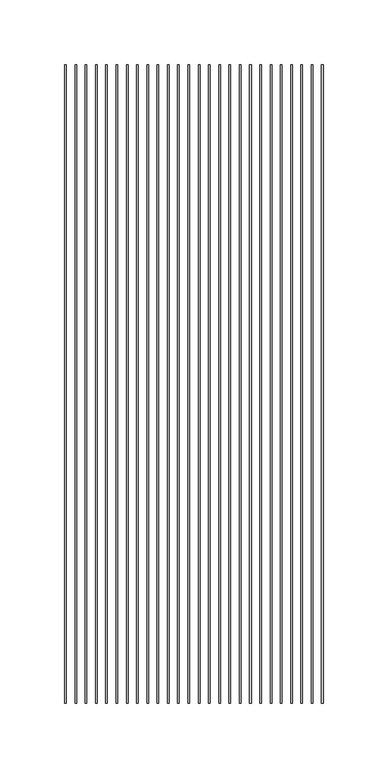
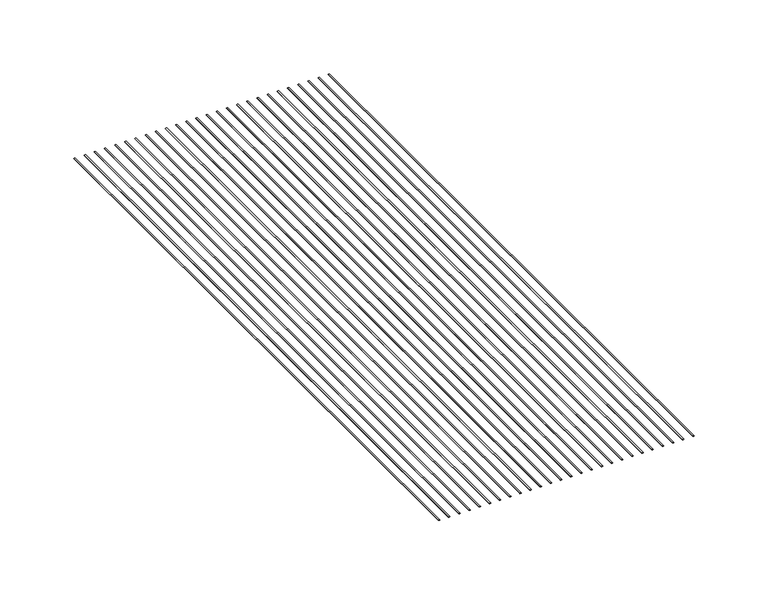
"""IFC4 building model written with IfcOpenShell, lengths in millimetres: proxy geometry, CRAi Generic Model Mesh Piece Face Based : CRAi Generic Model Mesh Piece Face Based."""

from ifc_helpers import new_model, si_unit, point, frame, origin, place, context, project, spatial, ellipse_curve, trimmed, source, transform, mapped, element, save
from ifc_brep_helpers import plane_surface, extruded_surface, advanced_brep


def generic_models_0bbfdc8f(model_context):
    return source(origin(), model_context, "Body", "AdvancedBrep", [
        advanced_brep(
        [(-164.9015625, -246.3036785, -2.5796875), (-163.7109375, -246.3036785, -2.5796875), (-164.9015625, 246.3036785, -2.5796875), (-163.7109375, 246.3036785, -2.5796875)],
        [
            (0, 1, ellipse_curve(frame((-164.30625, -246.3036785, -2.5796875), z_axis=(0.0, -1.0, 0.0), x_axis=(1.0, 0.0, 0.0)), 0.5953125, 0.1984375)),
            (1, 0, ellipse_curve(frame((-164.30625, -246.3036785, -2.5796875), z_axis=(0.0, -1.0, 0.0), x_axis=(1.0, 0.0, 0.0)), 0.5953125, 0.1984375)),
            (2, 3, ellipse_curve(frame((-164.30625, 246.3036785, -2.5796875), z_axis=(0.0, 1.0, 0.0), x_axis=(1.0, 0.0, 0.0)), 0.5953125, 0.1984375)),
            (3, 2, ellipse_curve(frame((-164.30625, 246.3036785, -2.5796875), z_axis=(0.0, 1.0, 0.0), x_axis=(1.0, 0.0, 0.0)), 0.5953125, 0.1984375)),
            (0, 2),
            (3, 1),
        ],
        [
            plane_surface(frame((-164.30625, -246.3036785, -2.5796875), z_axis=(0.0, -1.0, 0.0), x_axis=(0.0, 0.0, 1.0))),
            plane_surface(frame((-164.30625, 246.3036785, -2.5796875), z_axis=(0.0, 1.0, 0.0), x_axis=(0.0, 0.0, 1.0))),
            extruded_surface(trimmed(ellipse_curve(frame((-164.30625, 246.3036785, -2.5796875), z_axis=(0.0, -1.0, 0.0), x_axis=(1.0, 0.0, 0.0)), 0.5953125, 0.1984375), [point((-164.9015625, 246.3036785, -2.5796875))], [point((-163.7109375, 246.3036785, -2.5796875))], True, "CARTESIAN"), (0.0, -492.607357, 0.0), 492.607357),
            extruded_surface(trimmed(ellipse_curve(frame((-164.30625, 246.3036785, -2.5796875), z_axis=(0.0, -1.0, 0.0), x_axis=(1.0, 0.0, 0.0)), 0.5953125, 0.1984375), [point((-163.7109375, 246.3036785, -2.5796875))], [point((-164.9015625, 246.3036785, -2.5796875))], True, "CARTESIAN"), (0.0, -492.607357, 0.0), 492.607357),
        ],
        [
            (0, [[1, 2]]),
            (1, [[3, 4]]),
            (2, [[-1, 5, -4, 6]]),
            (3, [[-2, -6, -3, -5]]),
        ],
    ),
        advanced_brep(
        [(-156.9640625, -246.3036785, -2.5796875), (-155.7734375, -246.3036785, -2.5796875), (-156.9640625, 246.3036785, -2.5796875), (-155.7734375, 246.3036785, -2.5796875)],
        [
            (0, 1, ellipse_curve(frame((-156.36875, -246.3036785, -2.5796875), z_axis=(0.0, -1.0, 0.0), x_axis=(1.0, 0.0, 0.0)), 0.5953125, 0.1984375)),
            (1, 0, ellipse_curve(frame((-156.36875, -246.3036785, -2.5796875), z_axis=(0.0, -1.0, 0.0), x_axis=(1.0, 0.0, 0.0)), 0.5953125, 0.1984375)),
            (2, 3, ellipse_curve(frame((-156.36875, 246.3036785, -2.5796875), z_axis=(0.0, 1.0, 0.0), x_axis=(1.0, 0.0, 0.0)), 0.5953125, 0.1984375)),
            (3, 2, ellipse_curve(frame((-156.36875, 246.3036785, -2.5796875), z_axis=(0.0, 1.0, 0.0), x_axis=(1.0, 0.0, 0.0)), 0.5953125, 0.1984375)),
            (0, 2),
            (3, 1),
        ],
        [
            plane_surface(frame((-156.36875, -246.3036785, -2.5796875), z_axis=(0.0, -1.0, 0.0), x_axis=(0.0, 0.0, 1.0))),
            plane_surface(frame((-156.36875, 246.3036785, -2.5796875), z_axis=(0.0, 1.0, 0.0), x_axis=(0.0, 0.0, 1.0))),
            extruded_surface(trimmed(ellipse_curve(frame((-156.36875, 246.3036785, -2.5796875), z_axis=(0.0, -1.0, 0.0), x_axis=(1.0, 0.0, 0.0)), 0.5953125, 0.1984375), [point((-156.9640625, 246.3036785, -2.5796875))], [point((-155.7734375, 246.3036785, -2.5796875))], True, "CARTESIAN"), (0.0, -492.607357, 0.0), 492.607357),
            extruded_surface(trimmed(ellipse_curve(frame((-156.36875, 246.3036785, -2.5796875), z_axis=(0.0, -1.0, 0.0), x_axis=(1.0, 0.0, 0.0)), 0.5953125, 0.1984375), [point((-155.7734375, 246.3036785, -2.5796875))], [point((-156.9640625, 246.3036785, -2.5796875))], True, "CARTESIAN"), (0.0, -492.607357, 0.0), 492.607357),
        ],
        [
            (0, [[1, 2]]),
            (1, [[3, 4]]),
            (2, [[-1, 5, -4, 6]]),
            (3, [[-2, -6, -3, -5]]),
        ],
    ),
        advanced_brep(
        [(-149.0265625, -246.3036785, -2.5796875), (-147.8359375, -246.3036785, -2.5796875), (-149.0265625, 246.3036785, -2.5796875), (-147.8359375, 246.3036785, -2.5796875)],
        [
            (0, 1, ellipse_curve(frame((-148.43125, -246.3036785, -2.5796875), z_axis=(0.0, -1.0, 0.0), x_axis=(1.0, 0.0, 0.0)), 0.5953125, 0.1984375)),
            (1, 0, ellipse_curve(frame((-148.43125, -246.3036785, -2.5796875), z_axis=(0.0, -1.0, 0.0), x_axis=(1.0, 0.0, 0.0)), 0.5953125, 0.1984375)),
            (2, 3, ellipse_curve(frame((-148.43125, 246.3036785, -2.5796875), z_axis=(0.0, 1.0, 0.0), x_axis=(1.0, 0.0, 0.0)), 0.5953125, 0.1984375)),
            (3, 2, ellipse_curve(frame((-148.43125, 246.3036785, -2.5796875), z_axis=(0.0, 1.0, 0.0), x_axis=(1.0, 0.0, 0.0)), 0.5953125, 0.1984375)),
            (0, 2),
            (3, 1),
        ],
        [
            plane_surface(frame((-148.43125, -246.3036785, -2.5796875), z_axis=(0.0, -1.0, 0.0), x_axis=(0.0, 0.0, 1.0))),
            plane_surface(frame((-148.43125, 246.3036785, -2.5796875), z_axis=(0.0, 1.0, 0.0), x_axis=(0.0, 0.0, 1.0))),
            extruded_surface(trimmed(ellipse_curve(frame((-148.43125, 246.3036785, -2.5796875), z_axis=(0.0, -1.0, 0.0), x_axis=(1.0, 0.0, 0.0)), 0.5953125, 0.1984375), [point((-149.0265625, 246.3036785, -2.5796875))], [point((-147.8359375, 246.3036785, -2.5796875))], True, "CARTESIAN"), (0.0, -492.607357, 0.0), 492.607357),
            extruded_surface(trimmed(ellipse_curve(frame((-148.43125, 246.3036785, -2.5796875), z_axis=(0.0, -1.0, 0.0), x_axis=(1.0, 0.0, 0.0)), 0.5953125, 0.1984375), [point((-147.8359375, 246.3036785, -2.5796875))], [point((-149.0265625, 246.3036785, -2.5796875))], True, "CARTESIAN"), (0.0, -492.607357, 0.0), 492.607357),
        ],
        [
            (0, [[1, 2]]),
            (1, [[3, 4]]),
            (2, [[-1, 5, -4, 6]]),
            (3, [[-2, -6, -3, -5]]),
        ],
    ),
        advanced_brep(
        [(-141.0890625, -246.3036785, -2.5796875), (-139.8984375, -246.3036785, -2.5796875), (-141.0890625, 246.3036785, -2.5796875), (-139.8984375, 246.3036785, -2.5796875)],
        [
            (0, 1, ellipse_curve(frame((-140.49375, -246.3036785, -2.5796875), z_axis=(0.0, -1.0, 0.0), x_axis=(1.0, 0.0, 0.0)), 0.5953125, 0.1984375)),
            (1, 0, ellipse_curve(frame((-140.49375, -246.3036785, -2.5796875), z_axis=(0.0, -1.0, 0.0), x_axis=(1.0, 0.0, 0.0)), 0.5953125, 0.1984375)),
            (2, 3, ellipse_curve(frame((-140.49375, 246.3036785, -2.5796875), z_axis=(0.0, 1.0, 0.0), x_axis=(1.0, 0.0, 0.0)), 0.5953125, 0.1984375)),
            (3, 2, ellipse_curve(frame((-140.49375, 246.3036785, -2.5796875), z_axis=(0.0, 1.0, 0.0), x_axis=(1.0, 0.0, 0.0)), 0.5953125, 0.1984375)),
            (0, 2),
            (3, 1),
        ],
        [
            plane_surface(frame((-140.49375, -246.3036785, -2.5796875), z_axis=(0.0, -1.0, 0.0), x_axis=(0.0, 0.0, 1.0))),
            plane_surface(frame((-140.49375, 246.3036785, -2.5796875), z_axis=(0.0, 1.0, 0.0), x_axis=(0.0, 0.0, 1.0))),
            extruded_surface(trimmed(ellipse_curve(frame((-140.49375, 246.3036785, -2.5796875), z_axis=(0.0, -1.0, 0.0), x_axis=(1.0, 0.0, 0.0)), 0.5953125, 0.1984375), [point((-141.0890625, 246.3036785, -2.5796875))], [point((-139.8984375, 246.3036785, -2.5796875))], True, "CARTESIAN"), (0.0, -492.607357, 0.0), 492.607357),
            extruded_surface(trimmed(ellipse_curve(frame((-140.49375, 246.3036785, -2.5796875), z_axis=(0.0, -1.0, 0.0), x_axis=(1.0, 0.0, 0.0)), 0.5953125, 0.1984375), [point((-139.8984375, 246.3036785, -2.5796875))], [point((-141.0890625, 246.3036785, -2.5796875))], True, "CARTESIAN"), (0.0, -492.607357, 0.0), 492.607357),
        ],
        [
            (0, [[1, 2]]),
            (1, [[3, 4]]),
            (2, [[-1, 5, -4, 6]]),
            (3, [[-2, -6, -3, -5]]),
        ],
    ),
        advanced_brep(
        [(-133.1515625, -246.3036785, -2.5796875), (-131.9609375, -246.3036785, -2.5796875), (-133.1515625, 246.3036785, -2.5796875), (-131.9609375, 246.3036785, -2.5796875)],
        [
            (0, 1, ellipse_curve(frame((-132.55625, -246.3036785, -2.5796875), z_axis=(0.0, -1.0, 0.0), x_axis=(1.0, 0.0, 0.0)), 0.5953125, 0.1984375)),
            (1, 0, ellipse_curve(frame((-132.55625, -246.3036785, -2.5796875), z_axis=(0.0, -1.0, 0.0), x_axis=(1.0, 0.0, 0.0)), 0.5953125, 0.1984375)),
            (2, 3, ellipse_curve(frame((-132.55625, 246.3036785, -2.5796875), z_axis=(0.0, 1.0, 0.0), x_axis=(1.0, 0.0, 0.0)), 0.5953125, 0.1984375)),
            (3, 2, ellipse_curve(frame((-132.55625, 246.3036785, -2.5796875), z_axis=(0.0, 1.0, 0.0), x_axis=(1.0, 0.0, 0.0)), 0.5953125, 0.1984375)),
            (0, 2),
            (3, 1),
        ],
        [
            plane_surface(frame((-132.55625, -246.3036785, -2.5796875), z_axis=(0.0, -1.0, 0.0), x_axis=(0.0, 0.0, 1.0))),
            plane_surface(frame((-132.55625, 246.3036785, -2.5796875), z_axis=(0.0, 1.0, 0.0), x_axis=(0.0, 0.0, 1.0))),
            extruded_surface(trimmed(ellipse_curve(frame((-132.55625, 246.3036785, -2.5796875), z_axis=(0.0, -1.0, 0.0), x_axis=(1.0, 0.0, 0.0)), 0.5953125, 0.1984375), [point((-133.1515625, 246.3036785, -2.5796875))], [point((-131.9609375, 246.3036785, -2.5796875))], True, "CARTESIAN"), (0.0, -492.607357, 0.0), 492.607357),
            extruded_surface(trimmed(ellipse_curve(frame((-132.55625, 246.3036785, -2.5796875), z_axis=(0.0, -1.0, 0.0), x_axis=(1.0, 0.0, 0.0)), 0.5953125, 0.1984375), [point((-131.9609375, 246.3036785, -2.5796875))], [point((-133.1515625, 246.3036785, -2.5796875))], True, "CARTESIAN"), (0.0, -492.607357, 0.0), 492.607357),
        ],
        [
            (0, [[1, 2]]),
            (1, [[3, 4]]),
            (2, [[-1, 5, -4, 6]]),
            (3, [[-2, -6, -3, -5]]),
        ],
    ),
        advanced_brep(
        [(-125.2140625, -246.3036785, -2.5796875), (-124.0234375, -246.3036785, -2.5796875), (-125.2140625, 246.3036785, -2.5796875), (-124.0234375, 246.3036785, -2.5796875)],
        [
            (0, 1, ellipse_curve(frame((-124.61875, -246.3036785, -2.5796875), z_axis=(0.0, -1.0, 0.0), x_axis=(1.0, 0.0, 0.0)), 0.5953125, 0.1984375)),
            (1, 0, ellipse_curve(frame((-124.61875, -246.3036785, -2.5796875), z_axis=(0.0, -1.0, 0.0), x_axis=(1.0, 0.0, 0.0)), 0.5953125, 0.1984375)),
            (2, 3, ellipse_curve(frame((-124.61875, 246.3036785, -2.5796875), z_axis=(0.0, 1.0, 0.0), x_axis=(1.0, 0.0, 0.0)), 0.5953125, 0.1984375)),
            (3, 2, ellipse_curve(frame((-124.61875, 246.3036785, -2.5796875), z_axis=(0.0, 1.0, 0.0), x_axis=(1.0, 0.0, 0.0)), 0.5953125, 0.1984375)),
            (0, 2),
            (3, 1),
        ],
        [
            plane_surface(frame((-124.61875, -246.3036785, -2.5796875), z_axis=(0.0, -1.0, 0.0), x_axis=(0.0, 0.0, 1.0))),
            plane_surface(frame((-124.61875, 246.3036785, -2.5796875), z_axis=(0.0, 1.0, 0.0), x_axis=(0.0, 0.0, 1.0))),
            extruded_surface(trimmed(ellipse_curve(frame((-124.61875, 246.3036785, -2.5796875), z_axis=(0.0, -1.0, 0.0), x_axis=(1.0, 0.0, 0.0)), 0.5953125, 0.1984375), [point((-125.2140625, 246.3036785, -2.5796875))], [point((-124.0234375, 246.3036785, -2.5796875))], True, "CARTESIAN"), (0.0, -492.607357, 0.0), 492.607357),
            extruded_surface(trimmed(ellipse_curve(frame((-124.61875, 246.3036785, -2.5796875), z_axis=(0.0, -1.0, 0.0), x_axis=(1.0, 0.0, 0.0)), 0.5953125, 0.1984375), [point((-124.0234375, 246.3036785, -2.5796875))], [point((-125.2140625, 246.3036785, -2.5796875))], True, "CARTESIAN"), (0.0, -492.607357, 0.0), 492.607357),
        ],
        [
            (0, [[1, 2]]),
            (1, [[3, 4]]),
            (2, [[-1, 5, -4, 6]]),
            (3, [[-2, -6, -3, -5]]),
        ],
    ),
        advanced_brep(
        [(-117.2765625, -246.3036785, -2.5796875), (-116.0859375, -246.3036785, -2.5796875), (-117.2765625, 246.3036785, -2.5796875), (-116.0859375, 246.3036785, -2.5796875)],
        [
            (0, 1, ellipse_curve(frame((-116.68125, -246.3036785, -2.5796875), z_axis=(0.0, -1.0, 0.0), x_axis=(1.0, 0.0, 0.0)), 0.5953125, 0.1984375)),
            (1, 0, ellipse_curve(frame((-116.68125, -246.3036785, -2.5796875), z_axis=(0.0, -1.0, 0.0), x_axis=(1.0, 0.0, 0.0)), 0.5953125, 0.1984375)),
            (2, 3, ellipse_curve(frame((-116.68125, 246.3036785, -2.5796875), z_axis=(0.0, 1.0, 0.0), x_axis=(1.0, 0.0, 0.0)), 0.5953125, 0.1984375)),
            (3, 2, ellipse_curve(frame((-116.68125, 246.3036785, -2.5796875), z_axis=(0.0, 1.0, 0.0), x_axis=(1.0, 0.0, 0.0)), 0.5953125, 0.1984375)),
            (0, 2),
            (3, 1),
        ],
        [
            plane_surface(frame((-116.68125, -246.3036785, -2.5796875), z_axis=(0.0, -1.0, 0.0), x_axis=(0.0, 0.0, 1.0))),
            plane_surface(frame((-116.68125, 246.3036785, -2.5796875), z_axis=(0.0, 1.0, 0.0), x_axis=(0.0, 0.0, 1.0))),
            extruded_surface(trimmed(ellipse_curve(frame((-116.68125, 246.3036785, -2.5796875), z_axis=(0.0, -1.0, 0.0), x_axis=(1.0, 0.0, 0.0)), 0.5953125, 0.1984375), [point((-117.2765625, 246.3036785, -2.5796875))], [point((-116.0859375, 246.3036785, -2.5796875))], True, "CARTESIAN"), (0.0, -492.607357, 0.0), 492.607357),
            extruded_surface(trimmed(ellipse_curve(frame((-116.68125, 246.3036785, -2.5796875), z_axis=(0.0, -1.0, 0.0), x_axis=(1.0, 0.0, 0.0)), 0.5953125, 0.1984375), [point((-116.0859375, 246.3036785, -2.5796875))], [point((-117.2765625, 246.3036785, -2.5796875))], True, "CARTESIAN"), (0.0, -492.607357, 0.0), 492.607357),
        ],
        [
            (0, [[1, 2]]),
            (1, [[3, 4]]),
            (2, [[-1, 5, -4, 6]]),
            (3, [[-2, -6, -3, -5]]),
        ],
    ),
        advanced_brep(
        [(-109.3390625, -246.3036785, -2.5796875), (-108.1484375, -246.3036785, -2.5796875), (-109.3390625, 246.3036785, -2.5796875), (-108.1484375, 246.3036785, -2.5796875)],
        [
            (0, 1, ellipse_curve(frame((-108.74375, -246.3036785, -2.5796875), z_axis=(0.0, -1.0, 0.0), x_axis=(1.0, 0.0, 0.0)), 0.5953125, 0.1984375)),
            (1, 0, ellipse_curve(frame((-108.74375, -246.3036785, -2.5796875), z_axis=(0.0, -1.0, 0.0), x_axis=(1.0, 0.0, 0.0)), 0.5953125, 0.1984375)),
            (2, 3, ellipse_curve(frame((-108.74375, 246.3036785, -2.5796875), z_axis=(0.0, 1.0, 0.0), x_axis=(1.0, 0.0, 0.0)), 0.5953125, 0.1984375)),
            (3, 2, ellipse_curve(frame((-108.74375, 246.3036785, -2.5796875), z_axis=(0.0, 1.0, 0.0), x_axis=(1.0, 0.0, 0.0)), 0.5953125, 0.1984375)),
            (0, 2),
            (3, 1),
        ],
        [
            plane_surface(frame((-108.74375, -246.3036785, -2.5796875), z_axis=(0.0, -1.0, 0.0), x_axis=(0.0, 0.0, 1.0))),
            plane_surface(frame((-108.74375, 246.3036785, -2.5796875), z_axis=(0.0, 1.0, 0.0), x_axis=(0.0, 0.0, 1.0))),
            extruded_surface(trimmed(ellipse_curve(frame((-108.74375, 246.3036785, -2.5796875), z_axis=(0.0, -1.0, 0.0), x_axis=(1.0, 0.0, 0.0)), 0.5953125, 0.1984375), [point((-109.3390625, 246.3036785, -2.5796875))], [point((-108.1484375, 246.3036785, -2.5796875))], True, "CARTESIAN"), (0.0, -492.607357, 0.0), 492.607357),
            extruded_surface(trimmed(ellipse_curve(frame((-108.74375, 246.3036785, -2.5796875), z_axis=(0.0, -1.0, 0.0), x_axis=(1.0, 0.0, 0.0)), 0.5953125, 0.1984375), [point((-108.1484375, 246.3036785, -2.5796875))], [point((-109.3390625, 246.3036785, -2.5796875))], True, "CARTESIAN"), (0.0, -492.607357, 0.0), 492.607357),
        ],
        [
            (0, [[1, 2]]),
            (1, [[3, 4]]),
            (2, [[-1, 5, -4, 6]]),
            (3, [[-2, -6, -3, -5]]),
        ],
    ),
        advanced_brep(
        [(-101.4015625, -246.3036785, -2.5796875), (-100.2109375, -246.3036785, -2.5796875), (-101.4015625, 246.3036785, -2.5796875), (-100.2109375, 246.3036785, -2.5796875)],
        [
            (0, 1, ellipse_curve(frame((-100.80625, -246.3036785, -2.5796875), z_axis=(0.0, -1.0, 0.0), x_axis=(1.0, 0.0, 0.0)), 0.5953125, 0.1984375)),
            (1, 0, ellipse_curve(frame((-100.80625, -246.3036785, -2.5796875), z_axis=(0.0, -1.0, 0.0), x_axis=(1.0, 0.0, 0.0)), 0.5953125, 0.1984375)),
            (2, 3, ellipse_curve(frame((-100.80625, 246.3036785, -2.5796875), z_axis=(0.0, 1.0, 0.0), x_axis=(1.0, 0.0, 0.0)), 0.5953125, 0.1984375)),
            (3, 2, ellipse_curve(frame((-100.80625, 246.3036785, -2.5796875), z_axis=(0.0, 1.0, 0.0), x_axis=(1.0, 0.0, 0.0)), 0.5953125, 0.1984375)),
            (0, 2),
            (3, 1),
        ],
        [
            plane_surface(frame((-100.80625, -246.3036785, -2.5796875), z_axis=(0.0, -1.0, 0.0), x_axis=(0.0, 0.0, 1.0))),
            plane_surface(frame((-100.80625, 246.3036785, -2.5796875), z_axis=(0.0, 1.0, 0.0), x_axis=(0.0, 0.0, 1.0))),
            extruded_surface(trimmed(ellipse_curve(frame((-100.80625, 246.3036785, -2.5796875), z_axis=(0.0, -1.0, 0.0), x_axis=(1.0, 0.0, 0.0)), 0.5953125, 0.1984375), [point((-101.4015625, 246.3036785, -2.5796875))], [point((-100.2109375, 246.3036785, -2.5796875))], True, "CARTESIAN"), (0.0, -492.607357, 0.0), 492.607357),
            extruded_surface(trimmed(ellipse_curve(frame((-100.80625, 246.3036785, -2.5796875), z_axis=(0.0, -1.0, 0.0), x_axis=(1.0, 0.0, 0.0)), 0.5953125, 0.1984375), [point((-100.2109375, 246.3036785, -2.5796875))], [point((-101.4015625, 246.3036785, -2.5796875))], True, "CARTESIAN"), (0.0, -492.607357, 0.0), 492.607357),
        ],
        [
            (0, [[1, 2]]),
            (1, [[3, 4]]),
            (2, [[-1, 5, -4, 6]]),
            (3, [[-2, -6, -3, -5]]),
        ],
    ),
        advanced_brep(
        [(-93.4640625, -246.3036785, -2.5796875), (-92.2734375, -246.3036785, -2.5796875), (-93.4640625, 246.3036785, -2.5796875), (-92.2734375, 246.3036785, -2.5796875)],
        [
            (0, 1, ellipse_curve(frame((-92.86875, -246.3036785, -2.5796875), z_axis=(0.0, -1.0, 0.0), x_axis=(1.0, 0.0, 0.0)), 0.5953125, 0.1984375)),
            (1, 0, ellipse_curve(frame((-92.86875, -246.3036785, -2.5796875), z_axis=(0.0, -1.0, 0.0), x_axis=(1.0, 0.0, 0.0)), 0.5953125, 0.1984375)),
            (2, 3, ellipse_curve(frame((-92.86875, 246.3036785, -2.5796875), z_axis=(0.0, 1.0, 0.0), x_axis=(1.0, 0.0, 0.0)), 0.5953125, 0.1984375)),
            (3, 2, ellipse_curve(frame((-92.86875, 246.3036785, -2.5796875), z_axis=(0.0, 1.0, 0.0), x_axis=(1.0, 0.0, 0.0)), 0.5953125, 0.1984375)),
            (0, 2),
            (3, 1),
        ],
        [
            plane_surface(frame((-92.86875, -246.3036785, -2.5796875), z_axis=(0.0, -1.0, 0.0), x_axis=(0.0, 0.0, 1.0))),
            plane_surface(frame((-92.86875, 246.3036785, -2.5796875), z_axis=(0.0, 1.0, 0.0), x_axis=(0.0, 0.0, 1.0))),
            extruded_surface(trimmed(ellipse_curve(frame((-92.86875, 246.3036785, -2.5796875), z_axis=(0.0, -1.0, 0.0), x_axis=(1.0, 0.0, 0.0)), 0.5953125, 0.1984375), [point((-93.4640625, 246.3036785, -2.5796875))], [point((-92.2734375, 246.3036785, -2.5796875))], True, "CARTESIAN"), (0.0, -492.607357, 0.0), 492.607357),
            extruded_surface(trimmed(ellipse_curve(frame((-92.86875, 246.3036785, -2.5796875), z_axis=(0.0, -1.0, 0.0), x_axis=(1.0, 0.0, 0.0)), 0.5953125, 0.1984375), [point((-92.2734375, 246.3036785, -2.5796875))], [point((-93.4640625, 246.3036785, -2.5796875))], True, "CARTESIAN"), (0.0, -492.607357, 0.0), 492.607357),
        ],
        [
            (0, [[1, 2]]),
            (1, [[3, 4]]),
            (2, [[-1, 5, -4, 6]]),
            (3, [[-2, -6, -3, -5]]),
        ],
    ),
        advanced_brep(
        [(-85.5265625, -246.3036785, -2.5796875), (-84.3359375, -246.3036785, -2.5796875), (-85.5265625, 246.3036785, -2.5796875), (-84.3359375, 246.3036785, -2.5796875)],
        [
            (0, 1, ellipse_curve(frame((-84.93125, -246.3036785, -2.5796875), z_axis=(0.0, -1.0, 0.0), x_axis=(1.0, 0.0, 0.0)), 0.5953125, 0.1984375)),
            (1, 0, ellipse_curve(frame((-84.93125, -246.3036785, -2.5796875), z_axis=(0.0, -1.0, 0.0), x_axis=(1.0, 0.0, 0.0)), 0.5953125, 0.1984375)),
            (2, 3, ellipse_curve(frame((-84.93125, 246.3036785, -2.5796875), z_axis=(0.0, 1.0, 0.0), x_axis=(1.0, 0.0, 0.0)), 0.5953125, 0.1984375)),
            (3, 2, ellipse_curve(frame((-84.93125, 246.3036785, -2.5796875), z_axis=(0.0, 1.0, 0.0), x_axis=(1.0, 0.0, 0.0)), 0.5953125, 0.1984375)),
            (0, 2),
            (3, 1),
        ],
        [
            plane_surface(frame((-84.93125, -246.3036785, -2.5796875), z_axis=(0.0, -1.0, 0.0), x_axis=(0.0, 0.0, 1.0))),
            plane_surface(frame((-84.93125, 246.3036785, -2.5796875), z_axis=(0.0, 1.0, 0.0), x_axis=(0.0, 0.0, 1.0))),
            extruded_surface(trimmed(ellipse_curve(frame((-84.93125, 246.3036785, -2.5796875), z_axis=(0.0, -1.0, 0.0), x_axis=(1.0, 0.0, 0.0)), 0.5953125, 0.1984375), [point((-85.5265625, 246.3036785, -2.5796875))], [point((-84.3359375, 246.3036785, -2.5796875))], True, "CARTESIAN"), (0.0, -492.607357, 0.0), 492.607357),
            extruded_surface(trimmed(ellipse_curve(frame((-84.93125, 246.3036785, -2.5796875), z_axis=(0.0, -1.0, 0.0), x_axis=(1.0, 0.0, 0.0)), 0.5953125, 0.1984375), [point((-84.3359375, 246.3036785, -2.5796875))], [point((-85.5265625, 246.3036785, -2.5796875))], True, "CARTESIAN"), (0.0, -492.607357, 0.0), 492.607357),
        ],
        [
            (0, [[1, 2]]),
            (1, [[3, 4]]),
            (2, [[-1, 5, -4, 6]]),
            (3, [[-2, -6, -3, -5]]),
        ],
    ),
        advanced_brep(
        [(-77.5890625, -246.3036785, -2.5796875), (-76.3984375, -246.3036785, -2.5796875), (-77.5890625, 246.3036785, -2.5796875), (-76.3984375, 246.3036785, -2.5796875)],
        [
            (0, 1, ellipse_curve(frame((-76.99375, -246.3036785, -2.5796875), z_axis=(0.0, -1.0, 0.0), x_axis=(1.0, 0.0, 0.0)), 0.5953125, 0.1984375)),
            (1, 0, ellipse_curve(frame((-76.99375, -246.3036785, -2.5796875), z_axis=(0.0, -1.0, 0.0), x_axis=(1.0, 0.0, 0.0)), 0.5953125, 0.1984375)),
            (2, 3, ellipse_curve(frame((-76.99375, 246.3036785, -2.5796875), z_axis=(0.0, 1.0, 0.0), x_axis=(1.0, 0.0, 0.0)), 0.5953125, 0.1984375)),
            (3, 2, ellipse_curve(frame((-76.99375, 246.3036785, -2.5796875), z_axis=(0.0, 1.0, 0.0), x_axis=(1.0, 0.0, 0.0)), 0.5953125, 0.1984375)),
            (0, 2),
            (3, 1),
        ],
        [
            plane_surface(frame((-76.99375, -246.3036785, -2.5796875), z_axis=(0.0, -1.0, 0.0), x_axis=(0.0, 0.0, 1.0))),
            plane_surface(frame((-76.99375, 246.3036785, -2.5796875), z_axis=(0.0, 1.0, 0.0), x_axis=(0.0, 0.0, 1.0))),
            extruded_surface(trimmed(ellipse_curve(frame((-76.99375, 246.3036785, -2.5796875), z_axis=(0.0, -1.0, 0.0), x_axis=(1.0, 0.0, 0.0)), 0.5953125, 0.1984375), [point((-77.5890625, 246.3036785, -2.5796875))], [point((-76.3984375, 246.3036785, -2.5796875))], True, "CARTESIAN"), (0.0, -492.607357, 0.0), 492.607357),
            extruded_surface(trimmed(ellipse_curve(frame((-76.99375, 246.3036785, -2.5796875), z_axis=(0.0, -1.0, 0.0), x_axis=(1.0, 0.0, 0.0)), 0.5953125, 0.1984375), [point((-76.3984375, 246.3036785, -2.5796875))], [point((-77.5890625, 246.3036785, -2.5796875))], True, "CARTESIAN"), (0.0, -492.607357, 0.0), 492.607357),
        ],
        [
            (0, [[1, 2]]),
            (1, [[3, 4]]),
            (2, [[-1, 5, -4, 6]]),
            (3, [[-2, -6, -3, -5]]),
        ],
    ),
        advanced_brep(
        [(-69.6515625, -246.3036785, -2.5796875), (-68.4609375, -246.3036785, -2.5796875), (-69.6515625, 246.3036785, -2.5796875), (-68.4609375, 246.3036785, -2.5796875)],
        [
            (0, 1, ellipse_curve(frame((-69.05625, -246.3036785, -2.5796875), z_axis=(0.0, -1.0, 0.0), x_axis=(1.0, 0.0, 0.0)), 0.5953125, 0.1984375)),
            (1, 0, ellipse_curve(frame((-69.05625, -246.3036785, -2.5796875), z_axis=(0.0, -1.0, 0.0), x_axis=(1.0, 0.0, 0.0)), 0.5953125, 0.1984375)),
            (2, 3, ellipse_curve(frame((-69.05625, 246.3036785, -2.5796875), z_axis=(0.0, 1.0, 0.0), x_axis=(1.0, 0.0, 0.0)), 0.5953125, 0.1984375)),
            (3, 2, ellipse_curve(frame((-69.05625, 246.3036785, -2.5796875), z_axis=(0.0, 1.0, 0.0), x_axis=(1.0, 0.0, 0.0)), 0.5953125, 0.1984375)),
            (0, 2),
            (3, 1),
        ],
        [
            plane_surface(frame((-69.05625, -246.3036785, -2.5796875), z_axis=(0.0, -1.0, 0.0), x_axis=(0.0, 0.0, 1.0))),
            plane_surface(frame((-69.05625, 246.3036785, -2.5796875), z_axis=(0.0, 1.0, 0.0), x_axis=(0.0, 0.0, 1.0))),
            extruded_surface(trimmed(ellipse_curve(frame((-69.05625, 246.3036785, -2.5796875), z_axis=(0.0, -1.0, 0.0), x_axis=(1.0, 0.0, 0.0)), 0.5953125, 0.1984375), [point((-69.6515625, 246.3036785, -2.5796875))], [point((-68.4609375, 246.3036785, -2.5796875))], True, "CARTESIAN"), (0.0, -492.607357, 0.0), 492.607357),
            extruded_surface(trimmed(ellipse_curve(frame((-69.05625, 246.3036785, -2.5796875), z_axis=(0.0, -1.0, 0.0), x_axis=(1.0, 0.0, 0.0)), 0.5953125, 0.1984375), [point((-68.4609375, 246.3036785, -2.5796875))], [point((-69.6515625, 246.3036785, -2.5796875))], True, "CARTESIAN"), (0.0, -492.607357, 0.0), 492.607357),
        ],
        [
            (0, [[1, 2]]),
            (1, [[3, 4]]),
            (2, [[-1, 5, -4, 6]]),
            (3, [[-2, -6, -3, -5]]),
        ],
    ),
        advanced_brep(
        [(-61.7140625, -246.3036785, -2.5796875), (-60.5234375, -246.3036785, -2.5796875), (-61.7140625, 246.3036785, -2.5796875), (-60.5234375, 246.3036785, -2.5796875)],
        [
            (0, 1, ellipse_curve(frame((-61.11875, -246.3036785, -2.5796875), z_axis=(0.0, -1.0, 0.0), x_axis=(1.0, 0.0, 0.0)), 0.5953125, 0.1984375)),
            (1, 0, ellipse_curve(frame((-61.11875, -246.3036785, -2.5796875), z_axis=(0.0, -1.0, 0.0), x_axis=(1.0, 0.0, 0.0)), 0.5953125, 0.1984375)),
            (2, 3, ellipse_curve(frame((-61.11875, 246.3036785, -2.5796875), z_axis=(0.0, 1.0, 0.0), x_axis=(1.0, 0.0, 0.0)), 0.5953125, 0.1984375)),
            (3, 2, ellipse_curve(frame((-61.11875, 246.3036785, -2.5796875), z_axis=(0.0, 1.0, 0.0), x_axis=(1.0, 0.0, 0.0)), 0.5953125, 0.1984375)),
            (0, 2),
            (3, 1),
        ],
        [
            plane_surface(frame((-61.11875, -246.3036785, -2.5796875), z_axis=(0.0, -1.0, 0.0), x_axis=(0.0, 0.0, 1.0))),
            plane_surface(frame((-61.11875, 246.3036785, -2.5796875), z_axis=(0.0, 1.0, 0.0), x_axis=(0.0, 0.0, 1.0))),
            extruded_surface(trimmed(ellipse_curve(frame((-61.11875, 246.3036785, -2.5796875), z_axis=(0.0, -1.0, 0.0), x_axis=(1.0, 0.0, 0.0)), 0.5953125, 0.1984375), [point((-61.7140625, 246.3036785, -2.5796875))], [point((-60.5234375, 246.3036785, -2.5796875))], True, "CARTESIAN"), (0.0, -492.607357, 0.0), 492.607357),
            extruded_surface(trimmed(ellipse_curve(frame((-61.11875, 246.3036785, -2.5796875), z_axis=(0.0, -1.0, 0.0), x_axis=(1.0, 0.0, 0.0)), 0.5953125, 0.1984375), [point((-60.5234375, 246.3036785, -2.5796875))], [point((-61.7140625, 246.3036785, -2.5796875))], True, "CARTESIAN"), (0.0, -492.607357, 0.0), 492.607357),
        ],
        [
            (0, [[1, 2]]),
            (1, [[3, 4]]),
            (2, [[-1, 5, -4, 6]]),
            (3, [[-2, -6, -3, -5]]),
        ],
    ),
        advanced_brep(
        [(-53.7765625, -246.3036785, -2.5796875), (-52.5859375, -246.3036785, -2.5796875), (-53.7765625, 246.3036785, -2.5796875), (-52.5859375, 246.3036785, -2.5796875)],
        [
            (0, 1, ellipse_curve(frame((-53.18125, -246.3036785, -2.5796875), z_axis=(0.0, -1.0, 0.0), x_axis=(1.0, 0.0, 0.0)), 0.5953125, 0.1984375)),
            (1, 0, ellipse_curve(frame((-53.18125, -246.3036785, -2.5796875), z_axis=(0.0, -1.0, 0.0), x_axis=(1.0, 0.0, 0.0)), 0.5953125, 0.1984375)),
            (2, 3, ellipse_curve(frame((-53.18125, 246.3036785, -2.5796875), z_axis=(0.0, 1.0, 0.0), x_axis=(1.0, 0.0, 0.0)), 0.5953125, 0.1984375)),
            (3, 2, ellipse_curve(frame((-53.18125, 246.3036785, -2.5796875), z_axis=(0.0, 1.0, 0.0), x_axis=(1.0, 0.0, 0.0)), 0.5953125, 0.1984375)),
            (0, 2),
            (3, 1),
        ],
        [
            plane_surface(frame((-53.18125, -246.3036785, -2.5796875), z_axis=(0.0, -1.0, 0.0), x_axis=(0.0, 0.0, 1.0))),
            plane_surface(frame((-53.18125, 246.3036785, -2.5796875), z_axis=(0.0, 1.0, 0.0), x_axis=(0.0, 0.0, 1.0))),
            extruded_surface(trimmed(ellipse_curve(frame((-53.18125, 246.3036785, -2.5796875), z_axis=(0.0, -1.0, 0.0), x_axis=(1.0, 0.0, 0.0)), 0.5953125, 0.1984375), [point((-53.7765625, 246.3036785, -2.5796875))], [point((-52.5859375, 246.3036785, -2.5796875))], True, "CARTESIAN"), (0.0, -492.607357, 0.0), 492.607357),
            extruded_surface(trimmed(ellipse_curve(frame((-53.18125, 246.3036785, -2.5796875), z_axis=(0.0, -1.0, 0.0), x_axis=(1.0, 0.0, 0.0)), 0.5953125, 0.1984375), [point((-52.5859375, 246.3036785, -2.5796875))], [point((-53.7765625, 246.3036785, -2.5796875))], True, "CARTESIAN"), (0.0, -492.607357, 0.0), 492.607357),
        ],
        [
            (0, [[1, 2]]),
            (1, [[3, 4]]),
            (2, [[-1, 5, -4, 6]]),
            (3, [[-2, -6, -3, -5]]),
        ],
    ),
        advanced_brep(
        [(-45.8390625, -246.3036785, -2.5796875), (-44.6484375, -246.3036785, -2.5796875), (-45.8390625, 246.3036785, -2.5796875), (-44.6484375, 246.3036785, -2.5796875)],
        [
            (0, 1, ellipse_curve(frame((-45.24375, -246.3036785, -2.5796875), z_axis=(0.0, -1.0, 0.0), x_axis=(1.0, 0.0, 0.0)), 0.5953125, 0.1984375)),
            (1, 0, ellipse_curve(frame((-45.24375, -246.3036785, -2.5796875), z_axis=(0.0, -1.0, 0.0), x_axis=(1.0, 0.0, 0.0)), 0.5953125, 0.1984375)),
            (2, 3, ellipse_curve(frame((-45.24375, 246.3036785, -2.5796875), z_axis=(0.0, 1.0, 0.0), x_axis=(1.0, 0.0, 0.0)), 0.5953125, 0.1984375)),
            (3, 2, ellipse_curve(frame((-45.24375, 246.3036785, -2.5796875), z_axis=(0.0, 1.0, 0.0), x_axis=(1.0, 0.0, 0.0)), 0.5953125, 0.1984375)),
            (0, 2),
            (3, 1),
        ],
        [
            plane_surface(frame((-45.24375, -246.3036785, -2.5796875), z_axis=(0.0, -1.0, 0.0), x_axis=(0.0, 0.0, 1.0))),
            plane_surface(frame((-45.24375, 246.3036785, -2.5796875), z_axis=(0.0, 1.0, 0.0), x_axis=(0.0, 0.0, 1.0))),
            extruded_surface(trimmed(ellipse_curve(frame((-45.24375, 246.3036785, -2.5796875), z_axis=(0.0, -1.0, 0.0), x_axis=(1.0, 0.0, 0.0)), 0.5953125, 0.1984375), [point((-45.8390625, 246.3036785, -2.5796875))], [point((-44.6484375, 246.3036785, -2.5796875))], True, "CARTESIAN"), (0.0, -492.607357, 0.0), 492.607357),
            extruded_surface(trimmed(ellipse_curve(frame((-45.24375, 246.3036785, -2.5796875), z_axis=(0.0, -1.0, 0.0), x_axis=(1.0, 0.0, 0.0)), 0.5953125, 0.1984375), [point((-44.6484375, 246.3036785, -2.5796875))], [point((-45.8390625, 246.3036785, -2.5796875))], True, "CARTESIAN"), (0.0, -492.607357, 0.0), 492.607357),
        ],
        [
            (0, [[1, 2]]),
            (1, [[3, 4]]),
            (2, [[-1, 5, -4, 6]]),
            (3, [[-2, -6, -3, -5]]),
        ],
    ),
        advanced_brep(
        [(-37.9015625, -246.3036785, -2.5796875), (-36.7109375, -246.3036785, -2.5796875), (-37.9015625, 246.3036785, -2.5796875), (-36.7109375, 246.3036785, -2.5796875)],
        [
            (0, 1, ellipse_curve(frame((-37.30625, -246.3036785, -2.5796875), z_axis=(0.0, -1.0, 0.0), x_axis=(1.0, 0.0, 0.0)), 0.5953125, 0.1984375)),
            (1, 0, ellipse_curve(frame((-37.30625, -246.3036785, -2.5796875), z_axis=(0.0, -1.0, 0.0), x_axis=(1.0, 0.0, 0.0)), 0.5953125, 0.1984375)),
            (2, 3, ellipse_curve(frame((-37.30625, 246.3036785, -2.5796875), z_axis=(0.0, 1.0, 0.0), x_axis=(1.0, 0.0, 0.0)), 0.5953125, 0.1984375)),
            (3, 2, ellipse_curve(frame((-37.30625, 246.3036785, -2.5796875), z_axis=(0.0, 1.0, 0.0), x_axis=(1.0, 0.0, 0.0)), 0.5953125, 0.1984375)),
            (0, 2),
            (3, 1),
        ],
        [
            plane_surface(frame((-37.30625, -246.3036785, -2.5796875), z_axis=(0.0, -1.0, 0.0), x_axis=(0.0, 0.0, 1.0))),
            plane_surface(frame((-37.30625, 246.3036785, -2.5796875), z_axis=(0.0, 1.0, 0.0), x_axis=(0.0, 0.0, 1.0))),
            extruded_surface(trimmed(ellipse_curve(frame((-37.30625, 246.3036785, -2.5796875), z_axis=(0.0, -1.0, 0.0), x_axis=(1.0, 0.0, 0.0)), 0.5953125, 0.1984375), [point((-37.9015625, 246.3036785, -2.5796875))], [point((-36.7109375, 246.3036785, -2.5796875))], True, "CARTESIAN"), (0.0, -492.607357, 0.0), 492.607357),
            extruded_surface(trimmed(ellipse_curve(frame((-37.30625, 246.3036785, -2.5796875), z_axis=(0.0, -1.0, 0.0), x_axis=(1.0, 0.0, 0.0)), 0.5953125, 0.1984375), [point((-36.7109375, 246.3036785, -2.5796875))], [point((-37.9015625, 246.3036785, -2.5796875))], True, "CARTESIAN"), (0.0, -492.607357, 0.0), 492.607357),
        ],
        [
            (0, [[1, 2]]),
            (1, [[3, 4]]),
            (2, [[-1, 5, -4, 6]]),
            (3, [[-2, -6, -3, -5]]),
        ],
    ),
        advanced_brep(
        [(-29.9640625, -246.3036785, -2.5796875), (-28.7734375, -246.3036785, -2.5796875), (-29.9640625, 246.3036785, -2.5796875), (-28.7734375, 246.3036785, -2.5796875)],
        [
            (0, 1, ellipse_curve(frame((-29.36875, -246.3036785, -2.5796875), z_axis=(0.0, -1.0, 0.0), x_axis=(1.0, 0.0, 0.0)), 0.5953125, 0.1984375)),
            (1, 0, ellipse_curve(frame((-29.36875, -246.3036785, -2.5796875), z_axis=(0.0, -1.0, 0.0), x_axis=(1.0, 0.0, 0.0)), 0.5953125, 0.1984375)),
            (2, 3, ellipse_curve(frame((-29.36875, 246.3036785, -2.5796875), z_axis=(0.0, 1.0, 0.0), x_axis=(1.0, 0.0, 0.0)), 0.5953125, 0.1984375)),
            (3, 2, ellipse_curve(frame((-29.36875, 246.3036785, -2.5796875), z_axis=(0.0, 1.0, 0.0), x_axis=(1.0, 0.0, 0.0)), 0.5953125, 0.1984375)),
            (0, 2),
            (3, 1),
        ],
        [
            plane_surface(frame((-29.36875, -246.3036785, -2.5796875), z_axis=(0.0, -1.0, 0.0), x_axis=(0.0, 0.0, 1.0))),
            plane_surface(frame((-29.36875, 246.3036785, -2.5796875), z_axis=(0.0, 1.0, 0.0), x_axis=(0.0, 0.0, 1.0))),
            extruded_surface(trimmed(ellipse_curve(frame((-29.36875, 246.3036785, -2.5796875), z_axis=(0.0, -1.0, 0.0), x_axis=(1.0, 0.0, 0.0)), 0.5953125, 0.1984375), [point((-29.9640625, 246.3036785, -2.5796875))], [point((-28.7734375, 246.3036785, -2.5796875))], True, "CARTESIAN"), (0.0, -492.607357, 0.0), 492.607357),
            extruded_surface(trimmed(ellipse_curve(frame((-29.36875, 246.3036785, -2.5796875), z_axis=(0.0, -1.0, 0.0), x_axis=(1.0, 0.0, 0.0)), 0.5953125, 0.1984375), [point((-28.7734375, 246.3036785, -2.5796875))], [point((-29.9640625, 246.3036785, -2.5796875))], True, "CARTESIAN"), (0.0, -492.607357, 0.0), 492.607357),
        ],
        [
            (0, [[1, 2]]),
            (1, [[3, 4]]),
            (2, [[-1, 5, -4, 6]]),
            (3, [[-2, -6, -3, -5]]),
        ],
    ),
        advanced_brep(
        [(-22.0265625, -246.3036785, -2.5796875), (-20.8359375, -246.3036785, -2.5796875), (-22.0265625, 246.3036785, -2.5796875), (-20.8359375, 246.3036785, -2.5796875)],
        [
            (0, 1, ellipse_curve(frame((-21.43125, -246.3036785, -2.5796875), z_axis=(0.0, -1.0, 0.0), x_axis=(1.0, 0.0, 0.0)), 0.5953125, 0.1984375)),
            (1, 0, ellipse_curve(frame((-21.43125, -246.3036785, -2.5796875), z_axis=(0.0, -1.0, 0.0), x_axis=(1.0, 0.0, 0.0)), 0.5953125, 0.1984375)),
            (2, 3, ellipse_curve(frame((-21.43125, 246.3036785, -2.5796875), z_axis=(0.0, 1.0, 0.0), x_axis=(1.0, 0.0, 0.0)), 0.5953125, 0.1984375)),
            (3, 2, ellipse_curve(frame((-21.43125, 246.3036785, -2.5796875), z_axis=(0.0, 1.0, 0.0), x_axis=(1.0, 0.0, 0.0)), 0.5953125, 0.1984375)),
            (0, 2),
            (3, 1),
        ],
        [
            plane_surface(frame((-21.43125, -246.3036785, -2.5796875), z_axis=(0.0, -1.0, 0.0), x_axis=(0.0, 0.0, 1.0))),
            plane_surface(frame((-21.43125, 246.3036785, -2.5796875), z_axis=(0.0, 1.0, 0.0), x_axis=(0.0, 0.0, 1.0))),
            extruded_surface(trimmed(ellipse_curve(frame((-21.43125, 246.3036785, -2.5796875), z_axis=(0.0, -1.0, 0.0), x_axis=(1.0, 0.0, 0.0)), 0.5953125, 0.1984375), [point((-22.0265625, 246.3036785, -2.5796875))], [point((-20.8359375, 246.3036785, -2.5796875))], True, "CARTESIAN"), (0.0, -492.607357, 0.0), 492.607357),
            extruded_surface(trimmed(ellipse_curve(frame((-21.43125, 246.3036785, -2.5796875), z_axis=(0.0, -1.0, 0.0), x_axis=(1.0, 0.0, 0.0)), 0.5953125, 0.1984375), [point((-20.8359375, 246.3036785, -2.5796875))], [point((-22.0265625, 246.3036785, -2.5796875))], True, "CARTESIAN"), (0.0, -492.607357, 0.0), 492.607357),
        ],
        [
            (0, [[1, 2]]),
            (1, [[3, 4]]),
            (2, [[-1, 5, -4, 6]]),
            (3, [[-2, -6, -3, -5]]),
        ],
    ),
        advanced_brep(
        [(-14.0890625, -246.3036785, -2.5796875), (-12.8984375, -246.3036785, -2.5796875), (-14.0890625, 246.3036785, -2.5796875), (-12.8984375, 246.3036785, -2.5796875)],
        [
            (0, 1, ellipse_curve(frame((-13.49375, -246.3036785, -2.5796875), z_axis=(0.0, -1.0, 0.0), x_axis=(1.0, 0.0, 0.0)), 0.5953125, 0.1984375)),
            (1, 0, ellipse_curve(frame((-13.49375, -246.3036785, -2.5796875), z_axis=(0.0, -1.0, 0.0), x_axis=(1.0, 0.0, 0.0)), 0.5953125, 0.1984375)),
            (2, 3, ellipse_curve(frame((-13.49375, 246.3036785, -2.5796875), z_axis=(0.0, 1.0, 0.0), x_axis=(1.0, 0.0, 0.0)), 0.5953125, 0.1984375)),
            (3, 2, ellipse_curve(frame((-13.49375, 246.3036785, -2.5796875), z_axis=(0.0, 1.0, 0.0), x_axis=(1.0, 0.0, 0.0)), 0.5953125, 0.1984375)),
            (0, 2),
            (3, 1),
        ],
        [
            plane_surface(frame((-13.49375, -246.3036785, -2.5796875), z_axis=(0.0, -1.0, 0.0), x_axis=(0.0, 0.0, 1.0))),
            plane_surface(frame((-13.49375, 246.3036785, -2.5796875), z_axis=(0.0, 1.0, 0.0), x_axis=(0.0, 0.0, 1.0))),
            extruded_surface(trimmed(ellipse_curve(frame((-13.49375, 246.3036785, -2.5796875), z_axis=(0.0, -1.0, 0.0), x_axis=(1.0, 0.0, 0.0)), 0.5953125, 0.1984375), [point((-14.0890625, 246.3036785, -2.5796875))], [point((-12.8984375, 246.3036785, -2.5796875))], True, "CARTESIAN"), (0.0, -492.607357, 0.0), 492.607357),
            extruded_surface(trimmed(ellipse_curve(frame((-13.49375, 246.3036785, -2.5796875), z_axis=(0.0, -1.0, 0.0), x_axis=(1.0, 0.0, 0.0)), 0.5953125, 0.1984375), [point((-12.8984375, 246.3036785, -2.5796875))], [point((-14.0890625, 246.3036785, -2.5796875))], True, "CARTESIAN"), (0.0, -492.607357, 0.0), 492.607357),
        ],
        [
            (0, [[1, 2]]),
            (1, [[3, 4]]),
            (2, [[-1, 5, -4, 6]]),
            (3, [[-2, -6, -3, -5]]),
        ],
    ),
        advanced_brep(
        [(-6.1515625, -246.3036785, -2.5796875), (-4.9609375, -246.3036785, -2.5796875), (-6.1515625, 246.3036785, -2.5796875), (-4.9609375, 246.3036785, -2.5796875)],
        [
            (0, 1, ellipse_curve(frame((-5.55625, -246.3036785, -2.5796875), z_axis=(0.0, -1.0, 0.0), x_axis=(1.0, 0.0, 0.0)), 0.5953125, 0.1984375)),
            (1, 0, ellipse_curve(frame((-5.55625, -246.3036785, -2.5796875), z_axis=(0.0, -1.0, 0.0), x_axis=(1.0, 0.0, 0.0)), 0.5953125, 0.1984375)),
            (2, 3, ellipse_curve(frame((-5.55625, 246.3036785, -2.5796875), z_axis=(0.0, 1.0, 0.0), x_axis=(1.0, 0.0, 0.0)), 0.5953125, 0.1984375)),
            (3, 2, ellipse_curve(frame((-5.55625, 246.3036785, -2.5796875), z_axis=(0.0, 1.0, 0.0), x_axis=(1.0, 0.0, 0.0)), 0.5953125, 0.1984375)),
            (0, 2),
            (3, 1),
        ],
        [
            plane_surface(frame((-5.55625, -246.3036785, -2.5796875), z_axis=(0.0, -1.0, 0.0), x_axis=(0.0, 0.0, 1.0))),
            plane_surface(frame((-5.55625, 246.3036785, -2.5796875), z_axis=(0.0, 1.0, 0.0), x_axis=(0.0, 0.0, 1.0))),
            extruded_surface(trimmed(ellipse_curve(frame((-5.55625, 246.3036785, -2.5796875), z_axis=(0.0, -1.0, 0.0), x_axis=(1.0, 0.0, 0.0)), 0.5953125, 0.1984375), [point((-6.1515625, 246.3036785, -2.5796875))], [point((-4.9609375, 246.3036785, -2.5796875))], True, "CARTESIAN"), (0.0, -492.607357, 0.0), 492.607357),
            extruded_surface(trimmed(ellipse_curve(frame((-5.55625, 246.3036785, -2.5796875), z_axis=(0.0, -1.0, 0.0), x_axis=(1.0, 0.0, 0.0)), 0.5953125, 0.1984375), [point((-4.9609375, 246.3036785, -2.5796875))], [point((-6.1515625, 246.3036785, -2.5796875))], True, "CARTESIAN"), (0.0, -492.607357, 0.0), 492.607357),
        ],
        [
            (0, [[1, 2]]),
            (1, [[3, 4]]),
            (2, [[-1, 5, -4, 6]]),
            (3, [[-2, -6, -3, -5]]),
        ],
    ),
        advanced_brep(
        [(1.7859375, -246.3036785, -2.5796875), (2.9765625, -246.3036785, -2.5796875), (1.7859375, 246.3036785, -2.5796875), (2.9765625, 246.3036785, -2.5796875)],
        [
            (0, 1, ellipse_curve(frame((2.38125, -246.3036785, -2.5796875), z_axis=(0.0, -1.0, 0.0), x_axis=(1.0, 0.0, 0.0)), 0.5953125, 0.1984375)),
            (1, 0, ellipse_curve(frame((2.38125, -246.3036785, -2.5796875), z_axis=(0.0, -1.0, 0.0), x_axis=(1.0, 0.0, 0.0)), 0.5953125, 0.1984375)),
            (2, 3, ellipse_curve(frame((2.38125, 246.3036785, -2.5796875), z_axis=(0.0, 1.0, 0.0), x_axis=(1.0, 0.0, 0.0)), 0.5953125, 0.1984375)),
            (3, 2, ellipse_curve(frame((2.38125, 246.3036785, -2.5796875), z_axis=(0.0, 1.0, 0.0), x_axis=(1.0, 0.0, 0.0)), 0.5953125, 0.1984375)),
            (0, 2),
            (3, 1),
        ],
        [
            plane_surface(frame((2.38125, -246.3036785, -2.5796875), z_axis=(0.0, -1.0, 0.0), x_axis=(0.0, 0.0, 1.0))),
            plane_surface(frame((2.38125, 246.3036785, -2.5796875), z_axis=(0.0, 1.0, 0.0), x_axis=(0.0, 0.0, 1.0))),
            extruded_surface(trimmed(ellipse_curve(frame((2.38125, 246.3036785, -2.5796875), z_axis=(0.0, -1.0, 0.0), x_axis=(1.0, 0.0, 0.0)), 0.5953125, 0.1984375), [point((1.7859375, 246.3036785, -2.5796875))], [point((2.9765625, 246.3036785, -2.5796875))], True, "CARTESIAN"), (0.0, -492.607357, 0.0), 492.607357),
            extruded_surface(trimmed(ellipse_curve(frame((2.38125, 246.3036785, -2.5796875), z_axis=(0.0, -1.0, 0.0), x_axis=(1.0, 0.0, 0.0)), 0.5953125, 0.1984375), [point((2.9765625, 246.3036785, -2.5796875))], [point((1.7859375, 246.3036785, -2.5796875))], True, "CARTESIAN"), (0.0, -492.607357, 0.0), 492.607357),
        ],
        [
            (0, [[1, 2]]),
            (1, [[3, 4]]),
            (2, [[-1, 5, -4, 6]]),
            (3, [[-2, -6, -3, -5]]),
        ],
    ),
        advanced_brep(
        [(9.7234375, -246.3036785, -2.5796875), (10.9140625, -246.3036785, -2.5796875), (9.7234375, 246.3036785, -2.5796875), (10.9140625, 246.3036785, -2.5796875)],
        [
            (0, 1, ellipse_curve(frame((10.31875, -246.3036785, -2.5796875), z_axis=(0.0, -1.0, 0.0), x_axis=(1.0, 0.0, 0.0)), 0.5953125, 0.1984375)),
            (1, 0, ellipse_curve(frame((10.31875, -246.3036785, -2.5796875), z_axis=(0.0, -1.0, 0.0), x_axis=(1.0, 0.0, 0.0)), 0.5953125, 0.1984375)),
            (2, 3, ellipse_curve(frame((10.31875, 246.3036785, -2.5796875), z_axis=(0.0, 1.0, 0.0), x_axis=(1.0, 0.0, 0.0)), 0.5953125, 0.1984375)),
            (3, 2, ellipse_curve(frame((10.31875, 246.3036785, -2.5796875), z_axis=(0.0, 1.0, 0.0), x_axis=(1.0, 0.0, 0.0)), 0.5953125, 0.1984375)),
            (0, 2),
            (3, 1),
        ],
        [
            plane_surface(frame((10.31875, -246.3036785, -2.5796875), z_axis=(0.0, -1.0, 0.0), x_axis=(0.0, 0.0, 1.0))),
            plane_surface(frame((10.31875, 246.3036785, -2.5796875), z_axis=(0.0, 1.0, 0.0), x_axis=(0.0, 0.0, 1.0))),
            extruded_surface(trimmed(ellipse_curve(frame((10.31875, 246.3036785, -2.5796875), z_axis=(0.0, -1.0, 0.0), x_axis=(1.0, 0.0, 0.0)), 0.5953125, 0.1984375), [point((9.7234375, 246.3036785, -2.5796875))], [point((10.9140625, 246.3036785, -2.5796875))], True, "CARTESIAN"), (0.0, -492.607357, 0.0), 492.607357),
            extruded_surface(trimmed(ellipse_curve(frame((10.31875, 246.3036785, -2.5796875), z_axis=(0.0, -1.0, 0.0), x_axis=(1.0, 0.0, 0.0)), 0.5953125, 0.1984375), [point((10.9140625, 246.3036785, -2.5796875))], [point((9.7234375, 246.3036785, -2.5796875))], True, "CARTESIAN"), (0.0, -492.607357, 0.0), 492.607357),
        ],
        [
            (0, [[1, 2]]),
            (1, [[3, 4]]),
            (2, [[-1, 5, -4, 6]]),
            (3, [[-2, -6, -3, -5]]),
        ],
    ),
        advanced_brep(
        [(17.6609375, -246.3036785, -2.5796875), (18.8515625, -246.3036785, -2.5796875), (17.6609375, 246.3036785, -2.5796875), (18.8515625, 246.3036785, -2.5796875)],
        [
            (0, 1, ellipse_curve(frame((18.25625, -246.3036785, -2.5796875), z_axis=(0.0, -1.0, 0.0), x_axis=(1.0, 0.0, 0.0)), 0.5953125, 0.1984375)),
            (1, 0, ellipse_curve(frame((18.25625, -246.3036785, -2.5796875), z_axis=(0.0, -1.0, 0.0), x_axis=(1.0, 0.0, 0.0)), 0.5953125, 0.1984375)),
            (2, 3, ellipse_curve(frame((18.25625, 246.3036785, -2.5796875), z_axis=(0.0, 1.0, 0.0), x_axis=(1.0, 0.0, 0.0)), 0.5953125, 0.1984375)),
            (3, 2, ellipse_curve(frame((18.25625, 246.3036785, -2.5796875), z_axis=(0.0, 1.0, 0.0), x_axis=(1.0, 0.0, 0.0)), 0.5953125, 0.1984375)),
            (0, 2),
            (3, 1),
        ],
        [
            plane_surface(frame((18.25625, -246.3036785, -2.5796875), z_axis=(0.0, -1.0, 0.0), x_axis=(0.0, 0.0, 1.0))),
            plane_surface(frame((18.25625, 246.3036785, -2.5796875), z_axis=(0.0, 1.0, 0.0), x_axis=(0.0, 0.0, 1.0))),
            extruded_surface(trimmed(ellipse_curve(frame((18.25625, 246.3036785, -2.5796875), z_axis=(0.0, -1.0, 0.0), x_axis=(1.0, 0.0, 0.0)), 0.5953125, 0.1984375), [point((17.6609375, 246.3036785, -2.5796875))], [point((18.8515625, 246.3036785, -2.5796875))], True, "CARTESIAN"), (0.0, -492.607357, 0.0), 492.607357),
            extruded_surface(trimmed(ellipse_curve(frame((18.25625, 246.3036785, -2.5796875), z_axis=(0.0, -1.0, 0.0), x_axis=(1.0, 0.0, 0.0)), 0.5953125, 0.1984375), [point((18.8515625, 246.3036785, -2.5796875))], [point((17.6609375, 246.3036785, -2.5796875))], True, "CARTESIAN"), (0.0, -492.607357, 0.0), 492.607357),
        ],
        [
            (0, [[1, 2]]),
            (1, [[3, 4]]),
            (2, [[-1, 5, -4, 6]]),
            (3, [[-2, -6, -3, -5]]),
        ],
    ),
        advanced_brep(
        [(25.5984375, -246.3036785, -2.5796875), (26.7890625, -246.3036785, -2.5796875), (25.5984375, 246.3036785, -2.5796875), (26.7890625, 246.3036785, -2.5796875)],
        [
            (0, 1, ellipse_curve(frame((26.19375, -246.3036785, -2.5796875), z_axis=(0.0, -1.0, 0.0), x_axis=(1.0, 0.0, 0.0)), 0.5953125, 0.1984375)),
            (1, 0, ellipse_curve(frame((26.19375, -246.3036785, -2.5796875), z_axis=(0.0, -1.0, 0.0), x_axis=(1.0, 0.0, 0.0)), 0.5953125, 0.1984375)),
            (2, 3, ellipse_curve(frame((26.19375, 246.3036785, -2.5796875), z_axis=(0.0, 1.0, 0.0), x_axis=(1.0, 0.0, 0.0)), 0.5953125, 0.1984375)),
            (3, 2, ellipse_curve(frame((26.19375, 246.3036785, -2.5796875), z_axis=(0.0, 1.0, 0.0), x_axis=(1.0, 0.0, 0.0)), 0.5953125, 0.1984375)),
            (0, 2),
            (3, 1),
        ],
        [
            plane_surface(frame((26.19375, -246.3036785, -2.5796875), z_axis=(0.0, -1.0, 0.0), x_axis=(0.0, 0.0, 1.0))),
            plane_surface(frame((26.19375, 246.3036785, -2.5796875), z_axis=(0.0, 1.0, 0.0), x_axis=(0.0, 0.0, 1.0))),
            extruded_surface(trimmed(ellipse_curve(frame((26.19375, 246.3036785, -2.5796875), z_axis=(0.0, -1.0, 0.0), x_axis=(1.0, 0.0, 0.0)), 0.5953125, 0.1984375), [point((25.5984375, 246.3036785, -2.5796875))], [point((26.7890625, 246.3036785, -2.5796875))], True, "CARTESIAN"), (0.0, -492.607357, 0.0), 492.607357),
            extruded_surface(trimmed(ellipse_curve(frame((26.19375, 246.3036785, -2.5796875), z_axis=(0.0, -1.0, 0.0), x_axis=(1.0, 0.0, 0.0)), 0.5953125, 0.1984375), [point((26.7890625, 246.3036785, -2.5796875))], [point((25.5984375, 246.3036785, -2.5796875))], True, "CARTESIAN"), (0.0, -492.607357, 0.0), 492.607357),
        ],
        [
            (0, [[1, 2]]),
            (1, [[3, 4]]),
            (2, [[-1, 5, -4, 6]]),
            (3, [[-2, -6, -3, -5]]),
        ],
    ),
        advanced_brep(
        [(33.5359375, -246.3036785, -2.5796875), (34.7265625, -246.3036785, -2.5796875), (33.5359375, 246.3036785, -2.5796875), (34.7265625, 246.3036785, -2.5796875)],
        [
            (0, 1, ellipse_curve(frame((34.13125, -246.3036785, -2.5796875), z_axis=(0.0, -1.0, 0.0), x_axis=(1.0, 0.0, 0.0)), 0.5953125, 0.1984375)),
            (1, 0, ellipse_curve(frame((34.13125, -246.3036785, -2.5796875), z_axis=(0.0, -1.0, 0.0), x_axis=(1.0, 0.0, 0.0)), 0.5953125, 0.1984375)),
            (2, 3, ellipse_curve(frame((34.13125, 246.3036785, -2.5796875), z_axis=(0.0, 1.0, 0.0), x_axis=(1.0, 0.0, 0.0)), 0.5953125, 0.1984375)),
            (3, 2, ellipse_curve(frame((34.13125, 246.3036785, -2.5796875), z_axis=(0.0, 1.0, 0.0), x_axis=(1.0, 0.0, 0.0)), 0.5953125, 0.1984375)),
            (0, 2),
            (3, 1),
        ],
        [
            plane_surface(frame((34.13125, -246.3036785, -2.5796875), z_axis=(0.0, -1.0, 0.0), x_axis=(0.0, 0.0, 1.0))),
            plane_surface(frame((34.13125, 246.3036785, -2.5796875), z_axis=(0.0, 1.0, 0.0), x_axis=(0.0, 0.0, 1.0))),
            extruded_surface(trimmed(ellipse_curve(frame((34.13125, 246.3036785, -2.5796875), z_axis=(0.0, -1.0, 0.0), x_axis=(1.0, 0.0, 0.0)), 0.5953125, 0.1984375), [point((33.5359375, 246.3036785, -2.5796875))], [point((34.7265625, 246.3036785, -2.5796875))], True, "CARTESIAN"), (0.0, -492.607357, 0.0), 492.607357),
            extruded_surface(trimmed(ellipse_curve(frame((34.13125, 246.3036785, -2.5796875), z_axis=(0.0, -1.0, 0.0), x_axis=(1.0, 0.0, 0.0)), 0.5953125, 0.1984375), [point((34.7265625, 246.3036785, -2.5796875))], [point((33.5359375, 246.3036785, -2.5796875))], True, "CARTESIAN"), (0.0, -492.607357, 0.0), 492.607357),
        ],
        [
            (0, [[1, 2]]),
            (1, [[3, 4]]),
            (2, [[-1, 5, -4, 6]]),
            (3, [[-2, -6, -3, -5]]),
        ],
    ),
    ])


if __name__ == "__main__":
    model = new_model("IFC4")
    model_context = context("Model", 3, world=origin())
    ifc_project = project(units=[si_unit("LENGTHUNIT", "METRE", prefix="MILLI")], contexts=[model_context])
    site = spatial("IfcSite", under=ifc_project)
    building = spatial("IfcBuilding", under=site)
    placement = place(None, origin())
    generic_models_shape = generic_models_0bbfdc8f(model_context)
    element("IfcBuildingElementProxy", 1, Name="CRAi Generic Model Mesh Piece Face Based : CRAi Generic Model Mesh Piece Face Based", ObjectType="CRAi Generic Model Mesh Piece Face Based : CRAi Generic Model Mesh Piece Face Based", at=placement, inside=building, context=model_context, shape_type="MappedRepresentation", body=[
        mapped(generic_models_shape, transform((0.0, 0.0, 0.0), x_axis=(1.0, 0.0, 0.0), y_axis=(0.0, 1.0, 0.0), z_axis=(0.0, 0.0, 1.0))),
    ])
    save(model, "model.ifc")
